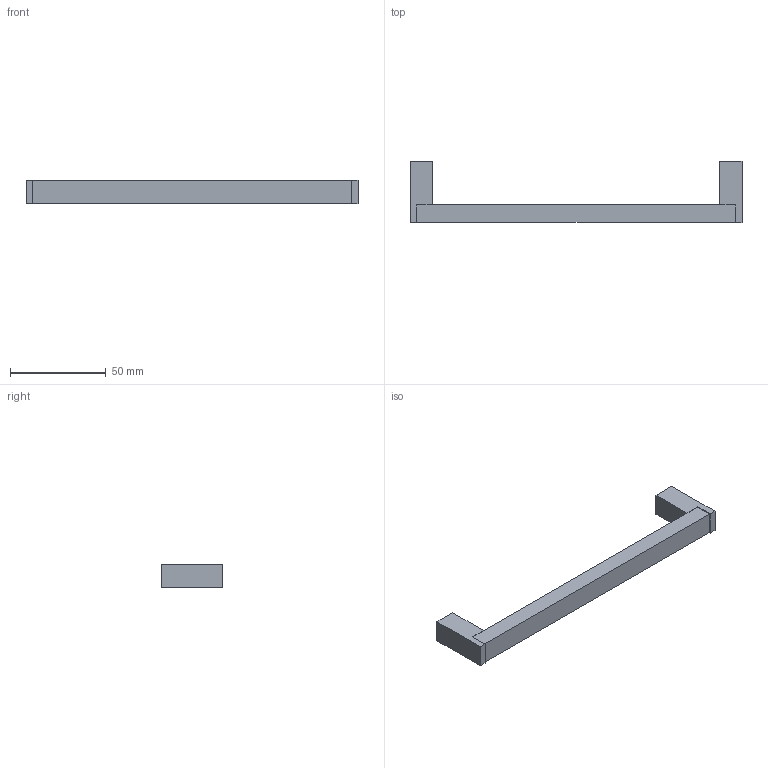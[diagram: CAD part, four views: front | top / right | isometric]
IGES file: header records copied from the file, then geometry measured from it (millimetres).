
Start section: Data from Parasolid IGES Translator 15.0.47, Copyright(c) 2006 Siemens P LM Software. All Rights Reserved.
Global section: file name: 9208083.igs; native system:  By UGS Corp.; preprocessor: XPlus GENERIC/IGES 3.0; author: Noname; organization: Noname; date: 20151216.173535; units: millimetre
Bounding box: 173 x 32 x 12.15 mm (x, y, z)
Surface area: 10023.8 mm2 (no closed solid volume)
Topology: 0 solids, 0 shells, 26 faces, 124 edges, 122 vertices
Faces by surface type: extrusion 24, revolution 2
